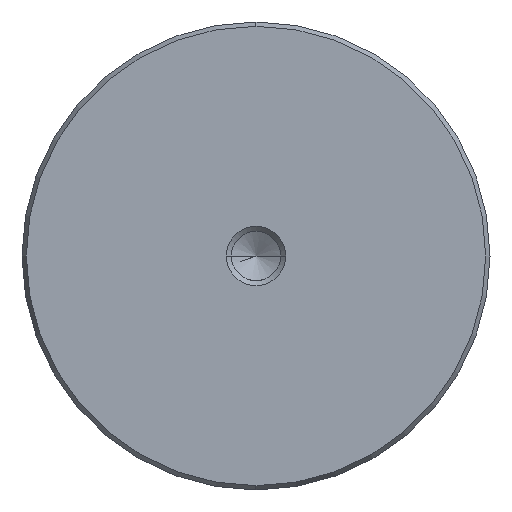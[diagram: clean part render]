
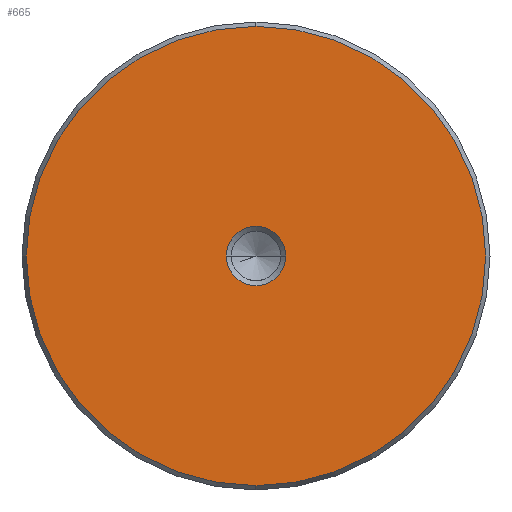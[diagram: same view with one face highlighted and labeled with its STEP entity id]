
A CAD part, left-side view. The second image highlights one B-rep face of the part: STEP entity #665.
In plain terms, the highlighted planar face has unit normal (-1, 0, 0).
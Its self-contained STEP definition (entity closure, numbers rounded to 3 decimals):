
#579=CARTESIAN_POINT('Vertex',(0.,0.,-30.923)) ;
#582=CARTESIAN_POINT('Axis2P3D Location',(0.,0.,0.)) ;
#586=CARTESIAN_POINT('Vertex',(0.,30.923,0.)) ;
#589=CARTESIAN_POINT('Axis2P3D Location',(0.,0.,0.)) ;
#593=CARTESIAN_POINT('Vertex',(0.,0.,30.923)) ;
#615=CARTESIAN_POINT('Axis2P3D Location',(0.,0.,0.)) ;
#619=CARTESIAN_POINT('Vertex',(0.,-30.923,0.)) ;
#622=CARTESIAN_POINT('Axis2P3D Location',(0.,0.,0.)) ;
#636=CARTESIAN_POINT('Axis2P3D Location',(0.,0.,0.)) ;
#647=CARTESIAN_POINT('Axis2P3D Location',(0.,0.,0.)) ;
#651=CARTESIAN_POINT('Vertex',(0.,4.,0.)) ;
#653=CARTESIAN_POINT('Vertex',(0.,-4.,0.)) ;
#656=CARTESIAN_POINT('Axis2P3D Location',(0.,0.,0.)) ;
#583=DIRECTION('Axis2P3D Direction',(1.,0.,-0.)) ;
#590=DIRECTION('Axis2P3D Direction',(1.,0.,-0.)) ;
#616=DIRECTION('Axis2P3D Direction',(1.,0.,-0.)) ;
#623=DIRECTION('Axis2P3D Direction',(1.,0.,-0.)) ;
#637=DIRECTION('Axis2P3D Direction',(1.,0.,-0.)) ;
#638=DIRECTION('Axis2P3D XDirection',(-0.,0.,-1.)) ;
#648=DIRECTION('Axis2P3D Direction',(1.,0.,-0.)) ;
#657=DIRECTION('Axis2P3D Direction',(1.,0.,-0.)) ;
#584=AXIS2_PLACEMENT_3D('Circle Axis2P3D',#582,#583,$) ;
#591=AXIS2_PLACEMENT_3D('Circle Axis2P3D',#589,#590,$) ;
#617=AXIS2_PLACEMENT_3D('Circle Axis2P3D',#615,#616,$) ;
#624=AXIS2_PLACEMENT_3D('Circle Axis2P3D',#622,#623,$) ;
#639=AXIS2_PLACEMENT_3D('Plane Axis2P3D',#636,#637,#638) ;
#649=AXIS2_PLACEMENT_3D('Circle Axis2P3D',#647,#648,$) ;
#658=AXIS2_PLACEMENT_3D('Circle Axis2P3D',#656,#657,$) ;
#642=ORIENTED_EDGE('',*,*,#588,.F.) ;
#643=ORIENTED_EDGE('',*,*,#626,.F.) ;
#644=ORIENTED_EDGE('',*,*,#621,.F.) ;
#645=ORIENTED_EDGE('',*,*,#595,.F.) ;
#662=ORIENTED_EDGE('',*,*,#655,.T.) ;
#663=ORIENTED_EDGE('',*,*,#660,.T.) ;
#664=FACE_BOUND('',#661,.T.) ;
#665=ADVANCED_FACE('720-63x450',(#646,#664),#640,.F.) ;
#585=CIRCLE('generated circle',#584,30.923) ;
#592=CIRCLE('generated circle',#591,30.923) ;
#618=CIRCLE('generated circle',#617,30.923) ;
#625=CIRCLE('generated circle',#624,30.923) ;
#650=CIRCLE('generated circle',#649,4.) ;
#659=CIRCLE('generated circle',#658,4.) ;
#588=EDGE_CURVE('',#580,#587,#585,.T.) ;
#595=EDGE_CURVE('',#587,#594,#592,.T.) ;
#621=EDGE_CURVE('',#594,#620,#618,.T.) ;
#626=EDGE_CURVE('',#620,#580,#625,.T.) ;
#655=EDGE_CURVE('',#652,#654,#650,.T.) ;
#660=EDGE_CURVE('',#654,#652,#659,.T.) ;
#641=EDGE_LOOP('',(#642,#643,#644,#645)) ;
#661=EDGE_LOOP('',(#662,#663)) ;
#646=FACE_OUTER_BOUND('',#641,.T.) ;
#640=PLANE('Plane',#639) ;
#580=VERTEX_POINT('',#579) ;
#587=VERTEX_POINT('',#586) ;
#594=VERTEX_POINT('',#593) ;
#620=VERTEX_POINT('',#619) ;
#652=VERTEX_POINT('',#651) ;
#654=VERTEX_POINT('',#653) ;
